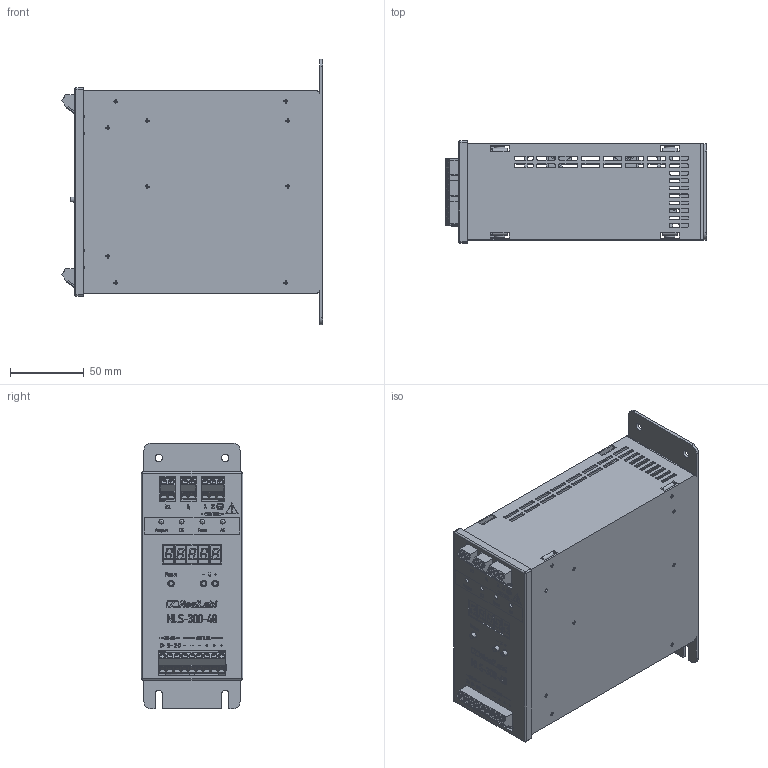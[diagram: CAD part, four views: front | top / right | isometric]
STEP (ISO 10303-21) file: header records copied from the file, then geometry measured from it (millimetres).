
FILE_DESCRIPTION(('STEP AP214'), '1');
FILE_NAME('Áëîê ïèòàíèÿ NLS-150', '', ('UNSPECIFIED'), ('UNSPECIFIED'), 'C3D Converter', 'C3D Toolkit', '');
FILE_SCHEMA(('AUTOMOTIVE_DESIGN { 1 0 10303 214 3 1 1}'));
Length unit declared in the file: millimetre
Bounding box: 176.85 x 69 x 180 mm (x, y, z)
Volume: 14154.8 mm3; surface area: 242062 mm2
Topology: 30 solids, 33 shells, 6225 faces, 16941 edges, 11172 vertices
Faces by surface type: plane 4303, extrusion 854, cylinder 785, cone 188, torus 63, bspline 24, sphere 8
Full cylindrical faces by diameter (mm): 0.8 x5, 1.3 x12, 2.459 x26, 2.5 x2, 3 x42, 3.2 x14, 3.3 x4, 3.5 x4, 4 x16, 4.1 x16, 4.4 x7, 4.95 x16, 5 x2, 5.6 x18, 6 x4, 7 x16, 56 x1
Entity records: 274644 total; most frequent: CARTESIAN_POINT 70961, ORIENTED_EDGE 33015, DIRECTION 27717, EDGE_CURVE 16514, VECTOR 13205, LINE 12351, VERTEX_POINT 11162, EDGE_LOOP 7544
